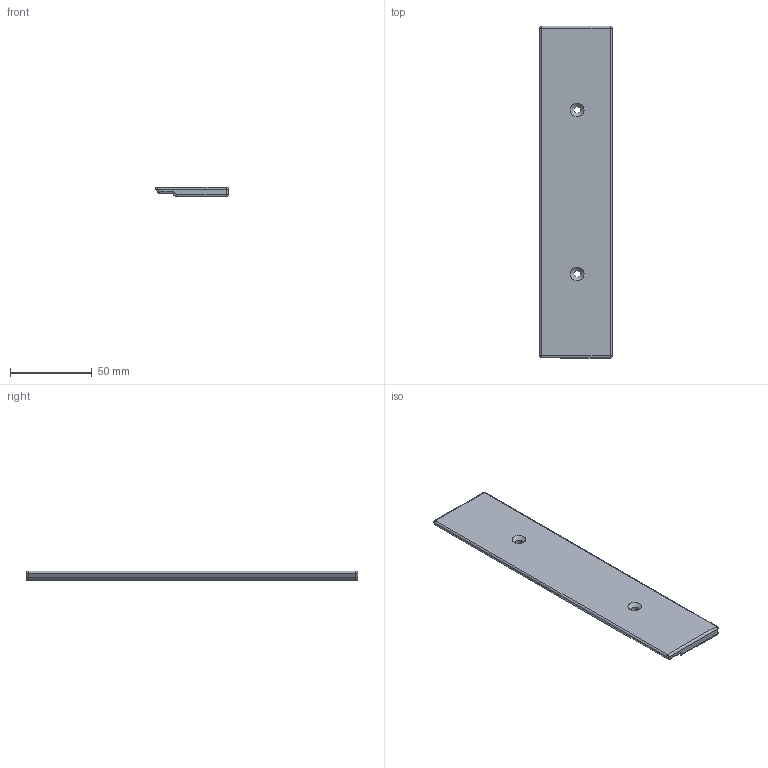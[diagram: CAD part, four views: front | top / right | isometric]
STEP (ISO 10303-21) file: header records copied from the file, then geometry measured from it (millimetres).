
FILE_DESCRIPTION(/* description */ (''),/* implementation_level */ '2;1');
FILE_NAME(/* name */ 'Yukon Storage Bin Bracket R1 03082026.stp',/* time_stamp */ '2026-03-08T14:21:45-04:00',/* author */ ('liberm'),/* organization */ (''),/* preprocessor_version */ 'ST-DEVELOPER v20',/* originating_system */ 'Autodesk Inventor 2025',/* authorisation */ '');
FILE_SCHEMA (('AUTOMOTIVE_DESIGN { 1 0 10303 214 3 1 1 }'));
Length unit declared in the file: inch
Products named in the file (1): Yukon Storage Bin Bracket R1 03082026
Bounding box: 44.45 x 203.2 x 5.97 mm (x, y, z)
Volume: 48561.6 mm3; surface area: 20148.2 mm2
Topology: 1 solids, 1 shells, 36 faces, 76 edges, 40 vertices
Faces by surface type: cylinder 18, plane 8, sphere 6, cone 2, bspline 2
Full cylindrical faces by diameter (mm): 4.064 x2
Entity records: 1059 total; most frequent: CARTESIAN_POINT 233, DIRECTION 180, ORIENTED_EDGE 148, EDGE_CURVE 74, AXIS2_PLACEMENT_3D 71, EDGE_LOOP 40, VERTEX_POINT 40, LINE 38
